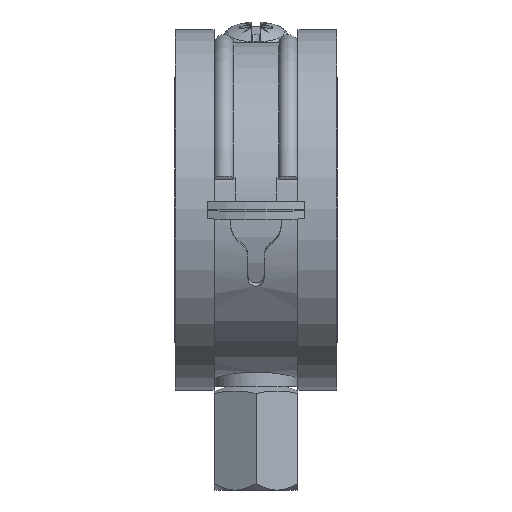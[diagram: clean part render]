
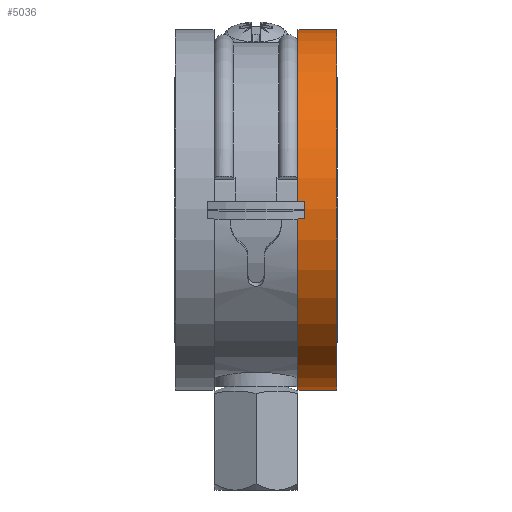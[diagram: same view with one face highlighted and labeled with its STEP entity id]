
A CAD part, left-side view. The second image highlights one B-rep face of the part: STEP entity #5036.
In plain terms, the highlighted cylindrical face has radius 27.9 mm (diameter 55.8 mm), a partial arc.
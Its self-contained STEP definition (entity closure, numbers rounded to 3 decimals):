
#517=FACE_OUTER_BOUND('',#801,.T.);
#801=EDGE_LOOP('',(#4244,#4245,#4246,#4247));
#1213=LINE('',#9190,#1615);
#1214=LINE('',#9193,#1616);
#1615=VECTOR('',#6762,1000.);
#1616=VECTOR('',#6765,1000.);
#1875=CIRCLE('',#5519,27.9);
#1876=CIRCLE('',#5521,27.9);
#2291=VERTEX_POINT('',#9180);
#2294=VERTEX_POINT('',#9185);
#2295=VERTEX_POINT('',#9189);
#2296=VERTEX_POINT('',#9191);
#2959=EDGE_CURVE('',#2294,#2291,#1875,.T.);
#2960=EDGE_CURVE('',#2295,#2294,#1213,.T.);
#2961=EDGE_CURVE('',#2295,#2296,#1876,.T.);
#2962=EDGE_CURVE('',#2296,#2291,#1214,.T.);
#4244=ORIENTED_EDGE('',*,*,#2959,.F.);
#4245=ORIENTED_EDGE('',*,*,#2960,.F.);
#4246=ORIENTED_EDGE('',*,*,#2961,.T.);
#4247=ORIENTED_EDGE('',*,*,#2962,.T.);
#4511=CYLINDRICAL_SURFACE('',#5520,27.9);
#5036=ADVANCED_FACE('',(#517),#4511,.T.);
#5519=AXIS2_PLACEMENT_3D('',#9187,#6758,#6759);
#5520=AXIS2_PLACEMENT_3D('',#9188,#6760,#6761);
#5521=AXIS2_PLACEMENT_3D('',#9192,#6763,#6764);
#6758=DIRECTION('center_axis',(0.,1.,0.));
#6759=DIRECTION('ref_axis',(0.999,0.,-0.039));
#6760=DIRECTION('center_axis',(0.,1.,0.));
#6761=DIRECTION('ref_axis',(-0.986,0.,-0.167));
#6762=DIRECTION('',(0.,1.,0.));
#6763=DIRECTION('center_axis',(0.,1.,0.));
#6764=DIRECTION('ref_axis',(0.999,0.,-0.039));
#6765=DIRECTION('',(0.,1.,0.));
#9180=CARTESIAN_POINT('',(25.972,-6.5,10.192));
#9185=CARTESIAN_POINT('',(27.879,-6.5,-1.081));
#9187=CARTESIAN_POINT('Origin',(0.,-6.5,0.));
#9188=CARTESIAN_POINT('Origin',(0.,0.,
0.));
#9189=CARTESIAN_POINT('',(27.879,-12.5,-1.081));
#9190=CARTESIAN_POINT('',(27.879,-6.5,-1.081));
#9191=CARTESIAN_POINT('',(25.972,-12.5,10.192));
#9192=CARTESIAN_POINT('Origin',(0.,-12.5,0.));
#9193=CARTESIAN_POINT('',(25.972,-6.5,10.192));
